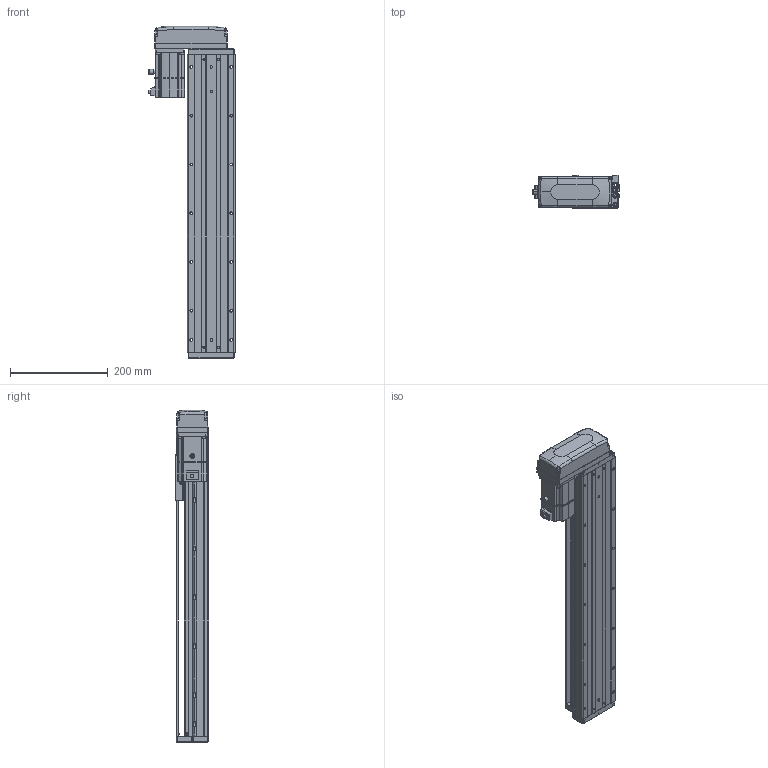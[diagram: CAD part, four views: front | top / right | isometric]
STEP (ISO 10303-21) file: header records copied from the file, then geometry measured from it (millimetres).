
FILE_DESCRIPTION (( 'STEP AP203' ), '1' );
FILE_NAME ('KTHA100-450-BR-M20-C4L.step', '2022-04-26T01:59:51', ( '微软用户' ), ( '微软中国' ), 'SwSTEP 2.0', 'SolidWorks 2020', '' );
FILE_SCHEMA (( 'CONFIG_CONTROL_DESIGN' ));
Length unit declared in the file: millimetre
Products named in the file (17): CTHA60-017; _X2_4E0983F1_X0_200W_1; KTHA100-001_610; CTHA60-021; CTHA86-015-1_CTHA86-015-2; KTHA100-002; GBT77-2000 M3×3; CTHA86-033; KTHA100-004; GBT 70.1-M3℅6; KTHA100-450-BR-M20-C4L; KTHA100-005; GBT70.1 M5℅16; GB¨uT 70.2-M3¡Á5_M3¡Á6; CTHA60-016; EE_SX911P_R; GBT 70.3-M3℅6
Assembly tree (57 placements, depth 2):
  KTHA100-450-BR-M20-C4L
    KTHA100-001_610
    KTHA100-002
    KTHA100-004
    KTHA100-005
    GB¨uT 70.2-M3¡Á5_M3¡Á6  x6
    EE_SX911P_R  x3
    CTHA60-017  x3
    CTHA60-021  x2
    GBT77-2000 M3×3  x6
    GBT 70.1-M3℅6  x10
    GBT70.1 M5℅16  x14
    CTHA60-016  x2
    GBT 70.3-M3℅6  x4
    _X2_4E0983F1_X0_200W_1
    CTHA86-015-1_CTHA86-015-2
    CTHA86-033
Bounding box: 178.52 x 68 x 681 mm (x, y, z)
Volume: 3158514.8 mm3; surface area: 519997.4 mm2
Topology: 60 solids, 60 shells, 2417 faces, 5777 edges, 3580 vertices
Faces by surface type: plane 1232, cylinder 671, cone 307, torus 116, bspline 75, sphere 16
Entity records: 41302 total; most frequent: CARTESIAN_POINT 8336, DIRECTION 6382, ORIENTED_EDGE 6166, EDGE_CURVE 3083, AXIS2_PLACEMENT_3D 2234, VERTEX_POINT 1940, VECTOR 1914, LINE 1914
